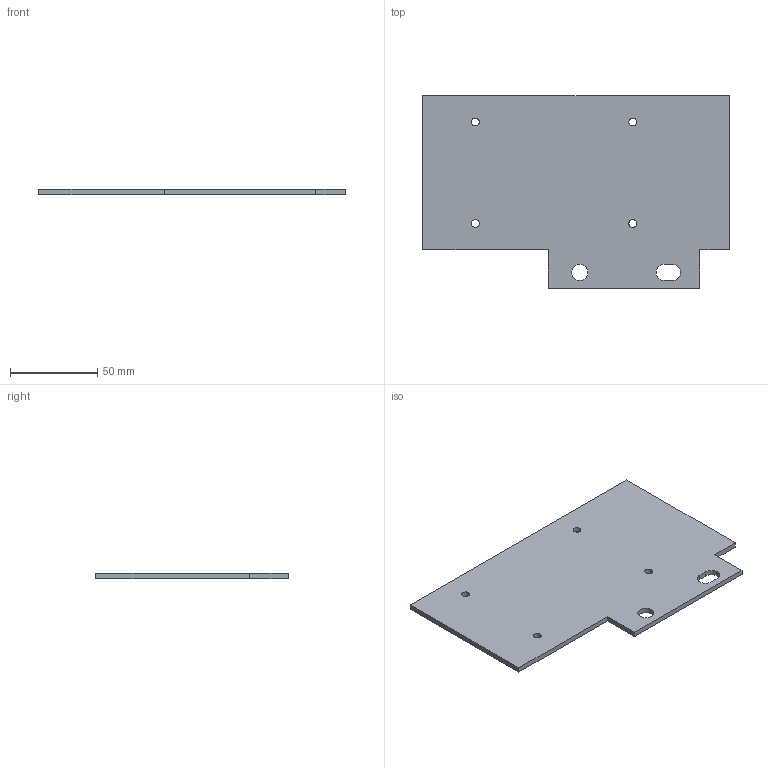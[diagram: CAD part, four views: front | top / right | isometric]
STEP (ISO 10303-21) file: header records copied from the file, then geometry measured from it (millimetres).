
FILE_DESCRIPTION(('FreeCAD Model'),'2;1');
FILE_NAME('Open CASCADE Shape Model','2026-09-11T17:58:35',( '' ),( '' ),'Open CASCADE STEP processor 7.8','FreeCAD','Unknown');
FILE_SCHEMA(('AUTOMOTIVE_DESIGN { 1 0 10303 214 1 1 1 1 }'));
Length unit declared in the file: millimetre
Products named in the file (1): Open CASCADE STEP translator 7.8 9
Bounding box: 175 x 110 x 3 mm (x, y, z)
Volume: 51200 mm3; surface area: 36215.2 mm2
Topology: 1 solids, 1 shells, 19 faces, 51 edges, 34 vertices
Faces by surface type: plane 12, cylinder 7
Full cylindrical faces by diameter (mm): 4.5 x4, 9.2 x1
Entity records: 633 total; most frequent: CARTESIAN_POINT 105, DIRECTION 105, ORIENTED_EDGE 102, EDGE_CURVE 51, LINE 37, VECTOR 37, AXIS2_PLACEMENT_3D 34, VERTEX_POINT 34
